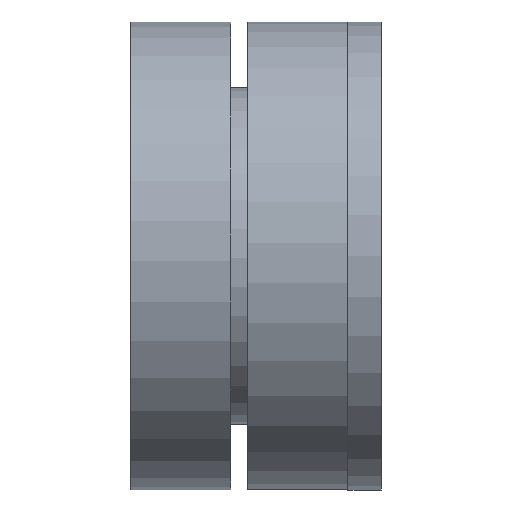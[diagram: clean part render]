
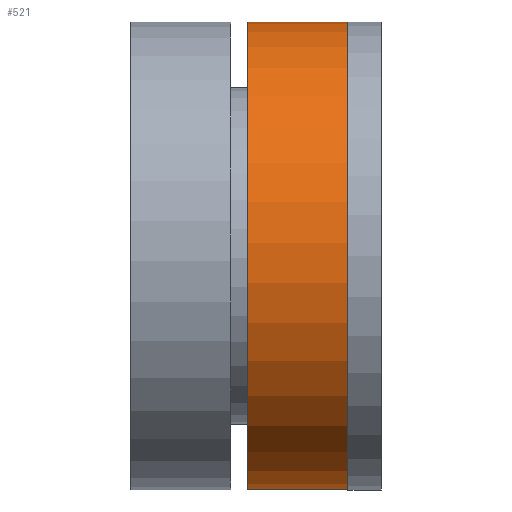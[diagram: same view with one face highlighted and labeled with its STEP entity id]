
A CAD part, left-side view. The second image highlights one B-rep face of the part: STEP entity #521.
In plain terms, the highlighted cylindrical face has radius 22.225 mm (diameter 44.45 mm), a full revolution.
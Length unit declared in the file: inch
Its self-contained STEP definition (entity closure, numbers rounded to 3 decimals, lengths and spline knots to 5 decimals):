
#494=CARTESIAN_POINT('',(0.0,0.0,0.0));
#495=DIRECTION('',(0.0,0.0,1.0));
#496=DIRECTION('',(-1.0,0.0,0.0));
#497=AXIS2_PLACEMENT_3D('',#494,#495,#496);
#498=CYLINDRICAL_SURFACE('',#497,0.875);
#499=CARTESIAN_POINT('',(0.875,0.,0.375));
#500=VERTEX_POINT('',#499);
#501=CARTESIAN_POINT('',(0.0,0.0,0.375));
#502=DIRECTION('',(0.0,0.0,-1.0));
#503=DIRECTION('',(-1.0,0.0,0.0));
#504=AXIS2_PLACEMENT_3D('',#501,#502,#503);
#505=CIRCLE('',#504,0.875);
#506=EDGE_CURVE('',#500,#500,#505,.T.);
#507=ORIENTED_EDGE('',*,*,#506,.T.);
#508=EDGE_LOOP('',(#507));
#509=FACE_OUTER_BOUND('',#508,.T.);
#510=CARTESIAN_POINT('',(0.875,0.,0.0));
#511=VERTEX_POINT('',#510);
#512=CARTESIAN_POINT('',(0.0,0.0,0.0));
#513=DIRECTION('',(0.0,0.0,-1.0));
#514=DIRECTION('',(-1.0,0.0,0.0));
#515=AXIS2_PLACEMENT_3D('',#512,#513,#514);
#516=CIRCLE('',#515,0.875);
#517=EDGE_CURVE('',#511,#511,#516,.T.);
#518=ORIENTED_EDGE('',*,*,#517,.F.);
#519=EDGE_LOOP('',(#518));
#520=FACE_BOUND('',#519,.T.);
#521=ADVANCED_FACE('',(#509,#520),#498,.T.);
